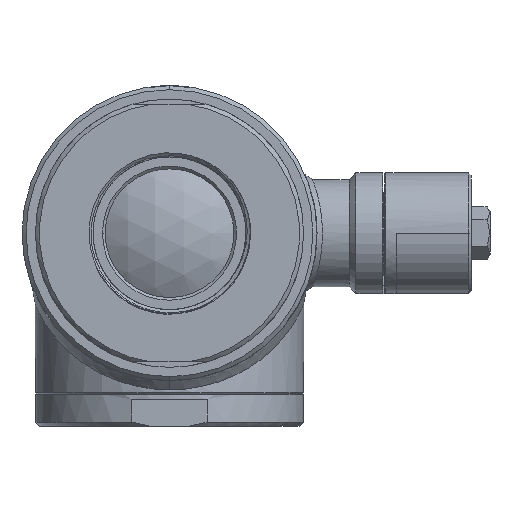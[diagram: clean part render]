
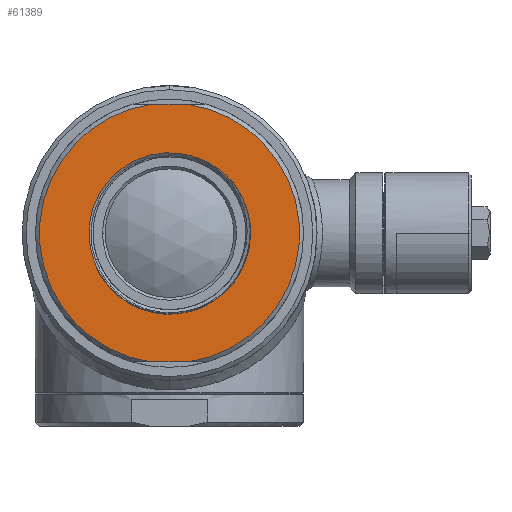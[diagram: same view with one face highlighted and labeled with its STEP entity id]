
A CAD part, front view. The second image highlights one B-rep face of the part: STEP entity #61389.
In plain terms, the highlighted planar face has unit normal (0, -1, 0).
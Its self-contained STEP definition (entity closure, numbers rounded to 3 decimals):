
#11557=CARTESIAN_POINT('',(0.,-72.,0.));
#11558=DIRECTION('',(0.,-1.,0.));
#11559=DIRECTION('',(-0.143,0.,0.99));
#11560=AXIS2_PLACEMENT_3D('',#11557,#11558,#11559);
#11565=DIRECTION('',(-1.,0.,0.));
#11566=VECTOR('',#11565,13.892);
#11567=CARTESIAN_POINT('',(6.946,-72.,
-48.));
#11568=LINE('',#11567,#11566);
#11572=DIRECTION('',(-1.,0.,0.));
#11573=VECTOR('',#11572,13.892);
#11574=CARTESIAN_POINT('',(6.946,-72.,
48.));
#11575=LINE('',#11574,#11573);
#11579=CARTESIAN_POINT('',(29.202,-72.,7.825));
#11580=CARTESIAN_POINT('',(29.342,-72.,7.252));
#11581=CARTESIAN_POINT('',(29.588,-72.,6.102));
#11582=CARTESIAN_POINT('',(29.856,-72.,4.358));
#11583=CARTESIAN_POINT('',(30.021,-72.,2.603));
#11584=CARTESIAN_POINT('',(30.083,-72.,0.844));
#11585=CARTESIAN_POINT('',(30.042,-72.,-0.915));
#11586=CARTESIAN_POINT('',(29.946,-72.,-2.082));
#11587=CARTESIAN_POINT('',(29.882,-72.,-2.664));
#11592=CARTESIAN_POINT('',(21.377,-72.,21.377));
#11593=CARTESIAN_POINT('',(21.844,-72.,20.91));
#11594=CARTESIAN_POINT('',(22.746,-72.,19.948));
#11595=CARTESIAN_POINT('',(24.002,-72.,18.418));
#11596=CARTESIAN_POINT('',(25.155,-72.,16.808));
#11597=CARTESIAN_POINT('',(26.2,-72.,15.127));
#11598=CARTESIAN_POINT('',(27.134,-72.,13.381));
#11599=CARTESIAN_POINT('',(27.951,-72.,11.578));
#11600=CARTESIAN_POINT('',(28.648,-72.,9.724));
#11601=CARTESIAN_POINT('',(29.031,-72.,8.463));
#11602=CARTESIAN_POINT('',(29.202,-72.,7.825));
#11607=CARTESIAN_POINT('',(12.634,-72.,27.21));
#11608=CARTESIAN_POINT('',(13.17,-72.,26.975));
#11609=CARTESIAN_POINT('',(14.229,-72.,26.475));
#11610=CARTESIAN_POINT('',(15.772,-72.,25.63));
#11611=CARTESIAN_POINT('',(17.265,-72.,24.697));
#11612=CARTESIAN_POINT('',(18.702,-72.,23.677));
#11613=CARTESIAN_POINT('',(20.078,-72.,22.573));
#11614=CARTESIAN_POINT('',(20.952,-72.,21.785));
#11615=CARTESIAN_POINT('',(21.377,-72.,21.377));
#11620=CARTESIAN_POINT('',(0.,-72.,0.));
#11621=DIRECTION('',(0.,1.,0.));
#11622=DIRECTION('',(-1.,0.,0.));
#11623=AXIS2_PLACEMENT_3D('',#11620,#11621,#11622);
#11628=CARTESIAN_POINT('',(0.,-72.,0.));
#11629=DIRECTION('',(0.,1.,0.));
#11630=DIRECTION('',(0.996,0.,-0.089));
#11631=AXIS2_PLACEMENT_3D('',#11628,#11629,#11630);
#11636=CARTESIAN_POINT('',(0.,-72.,0.));
#11637=DIRECTION('',(0.,-1.,0.));
#11638=DIRECTION('',(0.143,0.,-0.99));
#11639=AXIS2_PLACEMENT_3D('',#11636,#11637,#11638);
#11649=CARTESIAN_POINT('',(6.946,-72.,
-48.));
#11668=CARTESIAN_POINT('',(-6.946,-72.,
-48.));
#11685=CARTESIAN_POINT('',(6.946,-72.,
48.));
#11700=CARTESIAN_POINT('',(-6.946,-72.,
48.));
#11851=CARTESIAN_POINT('',(12.634,-72.,27.21));
#12085=CARTESIAN_POINT('',(21.377,-72.,21.377));
#13871=CARTESIAN_POINT('',(29.202,-72.,7.825));
#14884=CARTESIAN_POINT('',(29.882,-72.,-2.664));
#51502=VERTEX_POINT('',#11649);
#51505=VERTEX_POINT('',#11685);
#51508=VERTEX_POINT('',#11700);
#51511=VERTEX_POINT('',#11668);
#51553=CARTESIAN_POINT('',(-30.,-72.,
0.));
#51555=VERTEX_POINT('',#51553);
#51563=VERTEX_POINT('',#14884);
#51564=VERTEX_POINT('',#13871);
#51565=VERTEX_POINT('',#12085);
#51566=VERTEX_POINT('',#11851);
#61363=CARTESIAN_POINT('',(0.,-72.,0.));
#61364=DIRECTION('',(0.,-1.,0.));
#61365=DIRECTION('',(-1.,0.,0.));
#61366=AXIS2_PLACEMENT_3D('',#61363,#61364,#61365);
#61367=PLANE('',#61366);
#61369=ORIENTED_EDGE('',*,*,#61368,.F.);
#61371=ORIENTED_EDGE('',*,*,#61370,.T.);
#61372=ORIENTED_EDGE('',*,*,#61352,.F.);
#61374=ORIENTED_EDGE('',*,*,#61373,.F.);
#61375=EDGE_LOOP('',(#61369,#61371,#61372,#61374));
#61376=FACE_OUTER_BOUND('',#61375,.F.);
#61378=ORIENTED_EDGE('',*,*,#61377,.F.);
#61380=ORIENTED_EDGE('',*,*,#61379,.F.);
#61382=ORIENTED_EDGE('',*,*,#61381,.F.);
#61384=ORIENTED_EDGE('',*,*,#61383,.F.);
#61386=ORIENTED_EDGE('',*,*,#61385,.F.);
#61387=EDGE_LOOP('',(#61378,#61380,#61382,#61384,#61386));
#61388=FACE_BOUND('',#61387,.F.);
#61389=ADVANCED_FACE('',(#61376,#61388),#61367,.T.);
#11561=CIRCLE('',#11560,48.5);
#11588=B_SPLINE_CURVE_WITH_KNOTS('',3,(#11579,#11580,#11581,#11582,#11583,
#11584,#11585,#11586,#11587),.UNSPECIFIED.,.F.,.F.,(4,1,1,1,1,1,4),(0.,
0.167,0.333,0.5,0.667,0.833,
1.),.UNSPECIFIED.);
#11603=B_SPLINE_CURVE_WITH_KNOTS('',3,(#11592,#11593,#11594,#11595,#11596,
#11597,#11598,#11599,#11600,#11601,#11602),.UNSPECIFIED.,.F.,.F.,(4,1,1,1,1,1,1,
1,4),(0.,0.125,0.25,0.375,0.5,0.625,0.75,0.875,1.),
.UNSPECIFIED.);
#11616=B_SPLINE_CURVE_WITH_KNOTS('',3,(#11607,#11608,#11609,#11610,#11611,
#11612,#11613,#11614,#11615),.UNSPECIFIED.,.F.,.F.,(4,1,1,1,1,1,4),(0.,
0.167,0.333,0.5,0.667,0.833,
1.),.UNSPECIFIED.);
#11624=CIRCLE('',#11623,30.);
#11632=CIRCLE('',#11631,30.);
#11640=CIRCLE('',#11639,48.5);
#61352=EDGE_CURVE('',#51508,#51511,#11561,.T.);
#61368=EDGE_CURVE('',#51502,#51505,#11640,.T.);
#61370=EDGE_CURVE('',#51502,#51511,#11568,.T.);
#61373=EDGE_CURVE('',#51505,#51508,#11575,.T.);
#61377=EDGE_CURVE('',#51564,#51563,#11588,.T.);
#61379=EDGE_CURVE('',#51565,#51564,#11603,.T.);
#61381=EDGE_CURVE('',#51566,#51565,#11616,.T.);
#61383=EDGE_CURVE('',#51555,#51566,#11624,.T.);
#61385=EDGE_CURVE('',#51563,#51555,#11632,.T.);
